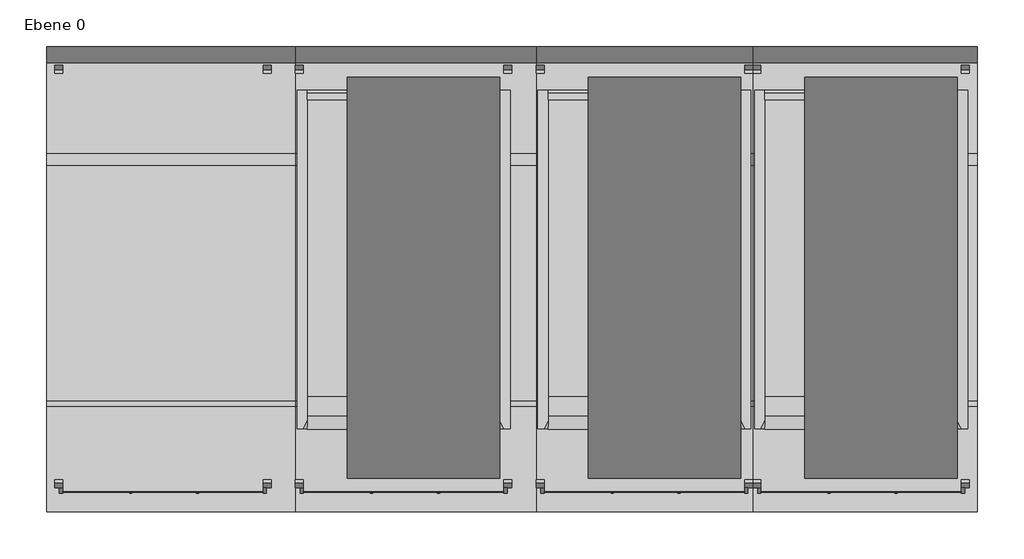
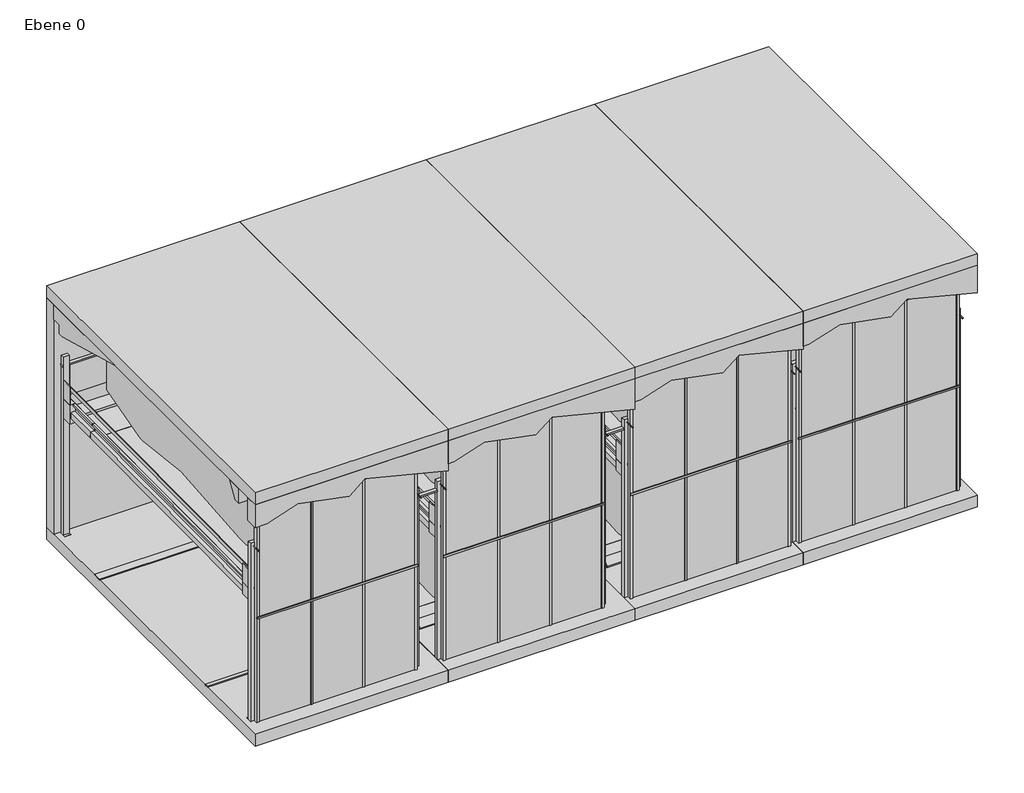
# One storey: 4 proxies.
"""IFC4 building model written with IfcOpenShell, lengths in millimetres."""

from ifc_helpers import new_model, si_unit, origin, place, context, project, spatial, transform, mapped, element, save
from components import generic_models_f09f2414, generic_models_2af5762d, generic_models_b6fc71eb, generic_models_85d4ead2

model = new_model("IFC4")

# Units and contexts
model_context = context("Model", 3, world=origin())
ifc_project = project(units=[si_unit("LENGTHUNIT", "METRE", prefix="MILLI")], contexts=[model_context])

# Site, building, storey
site = spatial("IfcSite", under=ifc_project)
building = spatial("IfcBuilding", under=site)
storey = spatial("IfcBuildingStorey", under=building, Name="Ebene 0", Elevation=0.0)

# Proxies
placement = place(None, origin())
generic_models_shape = generic_models_f09f2414(model_context)
element("IfcBuildingElementProxy", 1, Name="TrendVario 6200+ : TrendVario 6200+", ObjectType="TrendVario 6200+ : TrendVario 6200+", at=placement, inside=storey, context=model_context, shape_type="MappedRepresentation", body=[
    mapped(generic_models_shape, transform((-515.5658296, -2190.836259, 0.0), x_axis=(1.0, 0.0, 0.0), y_axis=(0.0, 1.0, 0.0), z_axis=(0.0, 0.0, 1.0))),
])
generic_models_2_shape = generic_models_2af5762d(model_context)
element("IfcBuildingElementProxy", 2, Name="TrendVario 6200+ : TrendVario 6200+", ObjectType="TrendVario 6200+ : TrendVario 6200+", at=placement, inside=storey, context=model_context, shape_type="MappedRepresentation", body=[
    mapped(generic_models_2_shape, transform((2484.4341704, -2190.836259, 0.0), x_axis=(1.0, 0.0, 0.0), y_axis=(0.0, 1.0, 0.0), z_axis=(0.0, 0.0, 1.0))),
])
generic_models_3_shape = generic_models_b6fc71eb(model_context)
element("IfcBuildingElementProxy", 3, Name="TrendVario 6200+ : TrendVario 6200+", ObjectType="TrendVario 6200+ : TrendVario 6200+", at=placement, inside=storey, context=model_context, shape_type="MappedRepresentation", body=[
    mapped(generic_models_3_shape, transform((5485.4341704, -2190.836259, 0.0), x_axis=(1.0, 0.0, 0.0), y_axis=(0.0, 1.0, 0.0), z_axis=(0.0, 0.0, 1.0))),
])
generic_models_4_shape = generic_models_85d4ead2(model_context)
element("IfcBuildingElementProxy", 4, Name="TrendVario 6200+ : TrendVario 6200+", ObjectType="TrendVario 6200+ : TrendVario 6200+", at=placement, inside=storey, context=model_context, shape_type="MappedRepresentation", body=[
    mapped(generic_models_4_shape, transform((8186.4341704, -2190.836259, 0.0), x_axis=(1.0, 0.0, 0.0), y_axis=(0.0, 1.0, 0.0), z_axis=(0.0, 0.0, 1.0))),
])

save(model, "model.ifc")
